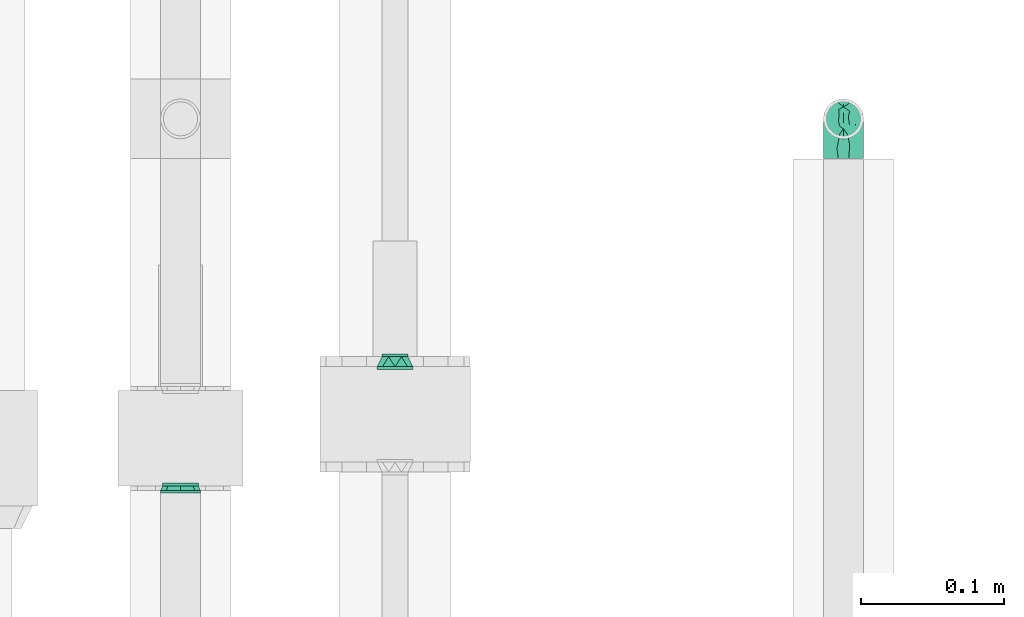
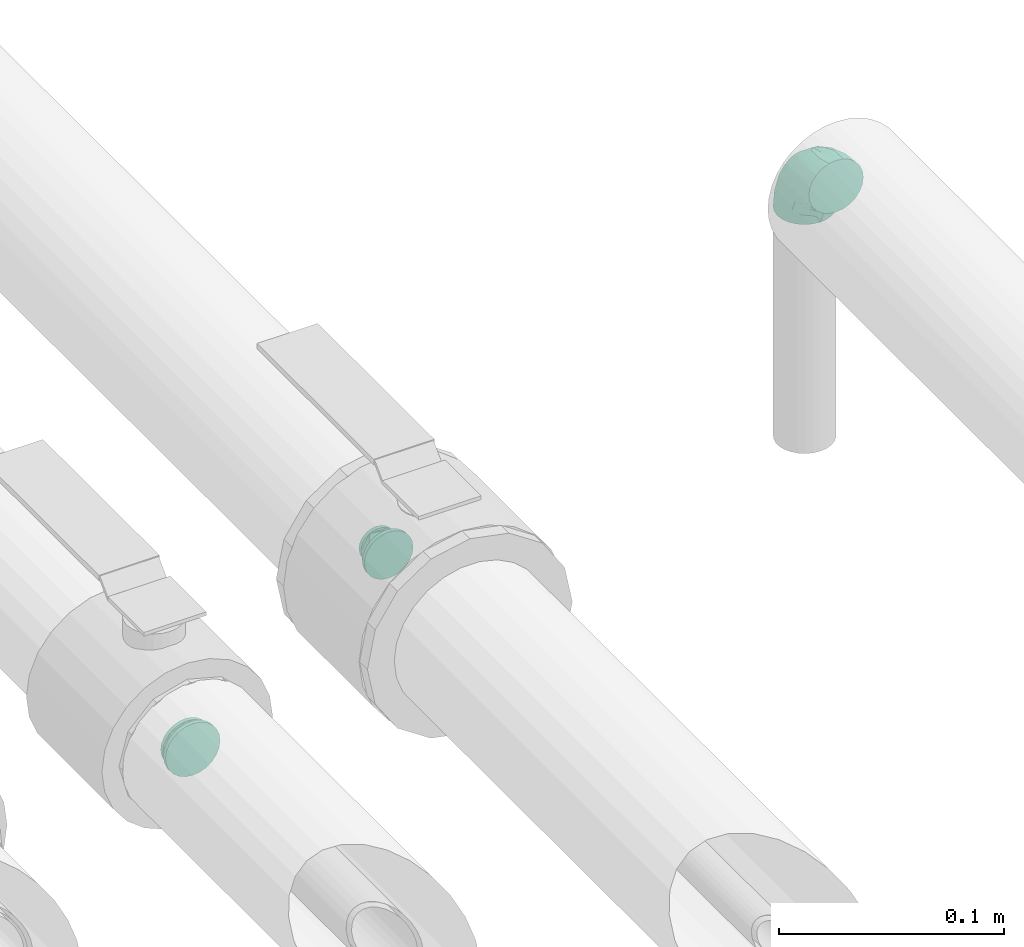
# One storey, part 81 of 83: 3 flow fittings.
"""IFC2X3 building model written with IfcOpenShell, lengths in millimetres."""

import ifcopenshell
import ifcopenshell.guid

model = None  # the IFC model being written
_history = None  # IfcOwnerHistory: only IFC2X3 demands one
_inside = {}  # id of a spatial element -> (the spatial element, [elements in it])
_under = {}  # id of a project, library or spatial element -> (it, [spatial elements below it])
_declared = {}  # id of a project -> (the project, [libraries it declares])
_typed = {}  # id of a type object -> (the type object, [elements of that type])
_made_of = {}  # id of a material, layer set ... -> (it, [elements and type objects made of it])


def new_model(schema):
    """Start an empty IFC model of exactly this schema.

    Asked for "IFC4X3", IfcOpenShell would pick the latest addendum, in which some entities
    have other attributes; the version numbers below select the first issue.
    IFC2X3 requires an IfcOwnerHistory on every rooted entity: one is made here for all.
    """
    global model, _history
    if schema == "IFC4X3":
        model = ifcopenshell.file(schema_version=(4, 3, 0, 0))
    else:
        model = ifcopenshell.file(schema=schema)
    _inside.clear()
    _under.clear()
    _declared.clear()
    _typed.clear()
    _made_of.clear()
    _history = None
    if model.schema == "IFC2X3":
        org = make("IfcOrganization", Name="unknown")
        user = make(
            "IfcPersonAndOrganization",
            ThePerson=make("IfcPerson", FamilyName="unknown"),
            TheOrganization=org,
        )
        app = make(
            "IfcApplication",
            ApplicationDeveloper=org,
            Version="unknown",
            ApplicationFullName="unknown",
            ApplicationIdentifier="unknown",
        )
        _history = make(
            "IfcOwnerHistory",
            OwningUser=user,
            OwningApplication=app,
            ChangeAction="ADDED",
            CreationDate=0,
        )
    return model


def make(cls, **values):
    """One entity of the class cls with the attributes given. An attribute that is None is left unset."""
    return model.create_entity(
        cls, **{name: value for name, value in values.items() if value is not None}
    )


def entity(cls, *values):
    """Any entity or typed value of the class cls, its attributes in the order of the schema. None: left unset."""
    e = model.create_entity(cls)
    for i, value in enumerate(values):
        if value is not None:
            e[i] = value
    return e


def rooted(cls, **values):
    """An entity with a GlobalId (a new one), such as an element, a storey or a relation."""
    return make(cls, GlobalId=ifcopenshell.guid.new(), OwnerHistory=_history, **values)


def si_unit(unit_type, name, prefix=None):
    """IfcSIUnit, for example si_unit("LENGTHUNIT", "METRE", prefix="MILLI")."""
    return make("IfcSIUnit", UnitType=unit_type, Prefix=prefix, Name=name)


def converted_unit(unit_type, name, factor, base, dimensions=None, offset=None):
    """IfcConversionBasedUnit, such as the inch: factor (a typed value) times the base unit."""
    return make(
        "IfcConversionBasedUnit"
        if offset is None
        else "IfcConversionBasedUnitWithOffset",
        ConversionOffset=offset,
        Dimensions=None
        if dimensions is None
        else entity("IfcDimensionalExponents", *dimensions),
        UnitType=unit_type,
        Name=name,
        ConversionFactor=make(
            "IfcMeasureWithUnit", ValueComponent=factor, UnitComponent=base
        ),
    )


def derived_unit(unit_type, elements):
    """IfcDerivedUnit: a product of units, each with its exponent."""
    return make(
        "IfcDerivedUnit",
        Elements=[
            make("IfcDerivedUnitElement", Unit=unit, Exponent=power)
            for unit, power in elements
        ],
        UnitType=unit_type,
    )


def assignment(units):
    """IfcUnitAssignment: the units of a project."""
    return None if units is None else make("IfcUnitAssignment", Units=units)


def point(xyz):
    """IfcCartesianPoint."""
    return None if xyz is None else make("IfcCartesianPoint", Coordinates=xyz)


def direction(xyz):
    """IfcDirection."""
    return None if xyz is None else make("IfcDirection", DirectionRatios=xyz)


def frame(location, z_axis=None, x_axis=None):
    """IfcAxis2Placement3D, a coordinate frame: its origin and axes. An axis left out is left unset."""
    return make(
        "IfcAxis2Placement3D",
        Location=point(location),
        Axis=direction(z_axis),
        RefDirection=direction(x_axis),
    )


def origin_with_axes():
    """The frame at (0, 0, 0) with the z axis (0, 0, 1) and the x axis (1, 0, 0) written out."""
    return frame((0.0, 0.0, 0.0), z_axis=(0.0, 0.0, 1.0), x_axis=(1.0, 0.0, 0.0))


def place(relative_to, where):
    """IfcLocalPlacement: puts the frame where relative to a parent placement (None: the world)."""
    return make(
        "IfcLocalPlacement", PlacementRelTo=relative_to, RelativePlacement=where
    )


def context(
    kind, dimensions, precision=None, world=None, true_north=None, identifier=None
):
    """IfcGeometricRepresentationContext, for example the 3D "Model" context."""
    return make(
        "IfcGeometricRepresentationContext",
        ContextIdentifier=identifier,
        ContextType=kind,
        CoordinateSpaceDimension=dimensions,
        Precision=precision,
        WorldCoordinateSystem=world,
        TrueNorth=true_north,
    )


def subcontext(parent, identifier, kind, view, scale=None):
    """IfcGeometricRepresentationSubContext, for example "Body" below "Model"."""
    return make(
        "IfcGeometricRepresentationSubContext",
        ContextIdentifier=identifier,
        ContextType=kind,
        ParentContext=parent,
        TargetScale=scale,
        TargetView=view,
    )


def project(units=None, contexts=None):
    """IfcProject with its units and contexts."""
    return rooted(
        "IfcProject",
        Name="project",
        RepresentationContexts=contexts,
        UnitsInContext=assignment(units),
    )


def spatial(cls, under=None, at=None, **own):
    """A site, building, storey or space (cls), placed at a placement, below another one or the project."""
    s = rooted(cls, ObjectPlacement=at, **own)
    if under is not None:
        _under.setdefault(under.id(), (under, []))[1].append(s)
    return s


def faces_of(points, faces, orient=None, outer=None):
    """IfcFace entities. A face is a list of loops; a loop is a list of indices into points, from 0.

    orient and outer hold one flag for each loop. By default every Orientation is true, the
    first loop of a face is its IfcFaceOuterBound and the others are IfcFaceBound.
    """
    made = []
    for i, loops in enumerate(faces):
        bounds = []
        for j, loop in enumerate(loops):
            is_outer = j == 0 if outer is None else outer[i][j]
            bounds.append(
                make(
                    "IfcFaceOuterBound" if is_outer else "IfcFaceBound",
                    Bound=make("IfcPolyLoop", Polygon=[points[k] for k in loop]),
                    Orientation=True if orient is None else orient[i][j],
                )
            )
        made.append(make("IfcFace", Bounds=bounds))
    return made


def open_shell(faces, orient=None, outer=None):
    """The faces of one IfcOpenShell. surface_model builds it on its shared points."""
    return ("IfcOpenShell", faces, orient, outer)


def surface_model(cls, points, shells):
    """IfcFaceBasedSurfaceModel or IfcShellBasedSurfaceModel (cls): surfaces that need not close."""
    shared = [point(p) for p in points]
    made = [make(c, CfsFaces=faces_of(shared, fs, o, b)) for c, fs, o, b in shells]
    if cls == "IfcFaceBasedSurfaceModel":
        return make(cls, FbsmFaces=made)
    return make(cls, SbsmBoundary=made)


def shape(context_of_items, identifier, shape_type, items):
    """IfcShapeRepresentation: the items that make up one representation, for example the "Body"."""
    return make(
        "IfcShapeRepresentation",
        ContextOfItems=context_of_items,
        RepresentationIdentifier=identifier,
        RepresentationType=shape_type,
        Items=items,
    )


def source(mapping_origin, context_of_items, identifier, shape_type, items):
    """IfcRepresentationMap: a shape defined once, which mapped items show again and again."""
    return make(
        "IfcRepresentationMap",
        MappingOrigin=mapping_origin,
        MappedRepresentation=shape(context_of_items, identifier, shape_type, items),
    )


def transform(
    local_origin,
    x_axis=None,
    y_axis=None,
    z_axis=None,
    scale=None,
    scale2=None,
    scale3=None,
    uniform=True,
):
    """IfcCartesianTransformationOperator3D, or its non-uniform kind. x_axis, y_axis, z_axis: its Axis1, 2, 3."""
    if uniform:
        return make(
            "IfcCartesianTransformationOperator3D",
            Axis1=direction(x_axis),
            Axis2=direction(y_axis),
            LocalOrigin=point(local_origin),
            Scale=scale,
            Axis3=direction(z_axis),
        )
    return make(
        "IfcCartesianTransformationOperator3DnonUniform",
        Axis1=direction(x_axis),
        Axis2=direction(y_axis),
        LocalOrigin=point(local_origin),
        Scale=scale,
        Axis3=direction(z_axis),
        Scale2=scale2,
        Scale3=scale3,
    )


def mapped(mapping_source, mapping_target):
    """IfcMappedItem: shows the shape of a source again, moved by a transform."""
    return make(
        "IfcMappedItem", MappingSource=mapping_source, MappingTarget=mapping_target
    )


def made_of(thing, what):
    """Note that an element or type object is made of a material, layer set ...; save() writes the relation."""
    if what is not None:
        _made_of.setdefault(what.id(), (what, []))[1].append(thing)
    return thing


def type_object(cls, material=None, **own):
    """A type object (cls), such as IfcWallType, which elements share."""
    return made_of(rooted(cls, **own), material)


def element(
    cls,
    number,
    at=None,
    inside=None,
    cuts=None,
    type_object=None,
    material=None,
    context=None,
    identifier="Body",
    shape_type=None,
    held_by="IfcProductDefinitionShape",
    body=None,
    shapes=None,
    **own,
):
    """One element of the class cls, such as IfcWall. Its Tag is "e" and its number.

    at: its placement. inside: the storey or other place that contains it. cuts: it is an
    opening in that element (IfcRelVoidsElement). A single representation is given by context,
    identifier, shape_type and body (its items); several are given by shapes. held_by: the class
    of the entity that holds the representations. save() writes the other relations.
    """
    e = rooted(cls, Tag="e%d" % number, ObjectPlacement=at, **own)
    if body is not None:
        shapes = [shape(context, identifier, shape_type, body)]
    if shapes is not None:
        e.Representation = make(held_by, Representations=shapes)
    if inside is not None:
        _inside.setdefault(inside.id(), (inside, []))[1].append(e)
    if cuts is not None:
        rooted(
            "IfcRelVoidsElement", RelatingBuildingElement=cuts, RelatedOpeningElement=e
        )
    if type_object is not None:
        _typed.setdefault(type_object.id(), (type_object, []))[1].append(e)
    return made_of(e, material)


def aggregate(whole, parts):
    """IfcRelAggregates: a whole, such as a stair, and the parts it consists of."""
    return rooted("IfcRelAggregates", RelatingObject=whole, RelatedObjects=parts)


def save(model, path):
    """Write the relations noted so far, then the file.

    IfcRelAggregates (storeys below a building ...), IfcRelContainedInSpatialStructure (elements
    in a storey), IfcRelDefinesByType, IfcRelAssociatesMaterial and IfcRelDeclares: one each for
    every whole, place, type object, material and project.
    """
    for whole, parts in _under.values():
        aggregate(whole, parts)
    for where, things in _inside.values():
        rooted(
            "IfcRelContainedInSpatialStructure",
            RelatedElements=things,
            RelatingStructure=where,
        )
    for kind, things in _typed.values():
        rooted("IfcRelDefinesByType", RelatedObjects=things, RelatingType=kind)
    for what, things in _made_of.values():
        rooted("IfcRelAssociatesMaterial", RelatedObjects=things, RelatingMaterial=what)
    for by, libraries in _declared.values():
        rooted("IfcRelDeclares", RelatingContext=by, RelatedDefinitions=libraries)
    model.write(path)


model = new_model("IFC2X3")

# Units and contexts
model_context = context("Model", 3, precision=0.01, world=frame((0.0, 4.29681676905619e-09, 0.0)), true_north=direction((4.01073788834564e-13, 1.0)))
plan_context = context("Plan", 3, precision=0.01, world=frame((0.0, 4.29681676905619e-09, 0.0)), true_north=direction((4.01073788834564e-13, 1.0)))
body_context = subcontext(model_context, "Body", "Model", "MODEL_VIEW")
ifc_project = project(units=[converted_unit("PLANEANGLEUNIT", "DEGREE", entity("IfcPositiveLengthMeasure", 0.0174532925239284), si_unit("PLANEANGLEUNIT", "RADIAN"), dimensions=[0, 0, 0, 0, 0, 0, 0]), si_unit("AREAUNIT", "SQUARE_METRE"), si_unit("LENGTHUNIT", "METRE", prefix="MILLI"), si_unit("MASSUNIT", "GRAM", prefix="KILO"), si_unit("POWERUNIT", "WATT"), si_unit("PRESSUREUNIT", "PASCAL"), si_unit("FORCEUNIT", "NEWTON", prefix="KILO"), si_unit("ELECTRICVOLTAGEUNIT", "VOLT"), si_unit("ELECTRICCURRENTUNIT", "AMPERE"), si_unit("THERMODYNAMICTEMPERATUREUNIT", "DEGREE_CELSIUS"), si_unit("TIMEUNIT", "SECOND"), si_unit("VOLUMEUNIT", "CUBIC_METRE"), derived_unit("LINEARVELOCITYUNIT", [(si_unit("LENGTHUNIT", "METRE"), 1), (si_unit("TIMEUNIT", "SECOND"), -1)]), derived_unit("VOLUMETRICFLOWRATEUNIT", [(si_unit("VOLUMEUNIT", "CUBIC_METRE"), 1), (si_unit("TIMEUNIT", "SECOND"), -1)]), derived_unit("THERMALTRANSMITTANCEUNIT", [(si_unit("POWERUNIT", "WATT"), 1), (si_unit("THERMODYNAMICTEMPERATUREUNIT", "KELVIN"), -1), (si_unit("AREAUNIT", "SQUARE_METRE"), -1)]), derived_unit("SOUNDPRESSUREUNIT", [(si_unit("PRESSUREUNIT", "PASCAL"), 1)])], contexts=[model_context, plan_context])

# Site, building, storey
site_placement = place(None, frame((0.0, -4.29681676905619e-09, 0.0), z_axis=(0.0, 0.0, 1.0), x_axis=(1.0, 0.0, 0.0)))
site = spatial("IfcSite", under=ifc_project, at=site_placement, Name="ENGM", CompositionType="ELEMENT")
building_placement = place(site_placement, frame((0.0, 4.29681676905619e-09, 0.0), z_axis=(0.0, 0.0, 1.0), x_axis=(1.0, 0.0, 0.0)))
building = spatial("IfcBuilding", under=site, at=building_placement, Name="TI", CompositionType="ELEMENT")
storey_placement = place(building_placement, frame((0.0, 0.0, 204000.0), z_axis=(0.0, 0.0, 1.0), x_axis=(1.0, 0.0, 0.0)))
storey = spatial("IfcBuildingStorey", under=building, at=storey_placement, Name="Nivå D", CompositionType="ELEMENT", Elevation=204000.0)

# Flow fittings
pipe_fitting_type_1 = type_object("IfcPipeFittingType", Name="magi_pipe_cu_reducer_centric_short_001", PredefinedType="TRANSITION")
shared_shape_1 = source(origin_with_axes(), body_context, "Body", "SurfaceModel", [
    surface_model("IfcShellBasedSurfaceModel", [(0.0, -9.0, 0.0), (0.0, -4.5, 7.79423), (0.0, -4.5, -7.79423), (-2.0, 0.0, 9.0), (-2.0, 2.32937, 8.69333), (-2.0, 4.5, 7.79423), (-2.0, 6.36396, 6.36396), (-2.0, -9.0, 0.0), (-2.0, -8.69333, -2.32937), (-2.0, 7.79423, 4.5), (-2.0, -2.32937, 8.69333), (-2.0, -6.36396, 6.36396), (-2.0, -4.5, 7.79423), (-2.0, -8.69333, 2.32937), (-2.0, -7.79423, 4.5), (-2.0, 8.69333, 2.32937), (-2.0, 8.69333, -2.32937), (-2.0, 6.36396, -6.36396), (-2.0, 7.79423, -4.5), (-2.0, 4.5, -7.79423), (-2.0, 2.32937, -8.69333), (-2.0, -4.5, -7.79423), (-2.0, -6.36396, -6.36396), (-2.0, -7.79423, -4.5), (-2.0, 0.0, -9.0), (-2.0, -2.32937, -8.69333), (-2.0, 9.0, 0.0), (0.0, 4.5, -7.79423), (0.0, -6.36396, -6.36396), (0.0, 2.32937, -8.69333), (0.0, 8.69333, -2.32937), (0.0, 6.36396, -6.36396), (0.0, 7.79423, -4.5), (0.0, 7.79423, 4.5), (0.0, -8.69333, -2.32937), (0.0, 0.0, -9.0), (0.0, -2.32937, -8.69333), (0.0, -7.79423, -4.5), (0.0, 9.0, 0.0), (0.0, 8.69333, 2.32937), (0.0, 0.0, 9.0), (0.0, 6.36396, 6.36396), (0.0, 4.5, 7.79423), (0.0, 2.32937, 8.69333), (0.0, -6.36396, 6.36396), (0.0, -8.69333, 2.32937), (0.0, -7.79423, 4.5), (0.0, -2.32937, 8.69333), (9.0, 12.07407, -3.23524), (9.0, 8.83883, -8.83883), (9.0, 10.82532, -6.25), (9.0, -8.83883, -8.83883), (9.0, -12.07407, -3.23524), (9.0, -10.82532, -6.25), (9.0, -6.25, -10.82532), (9.0, 12.07407, 3.23524), (9.0, 10.82532, 6.25), (9.0, 8.83883, 8.83883), (7.0, 8.83883, 8.83883), (7.0, 10.82532, 6.25), (7.0, 12.07407, 3.23524), (7.0, -3.23524, 12.07407), (7.0, -8.83883, 8.83883), (7.0, -6.25, 10.82532), (7.0, 8.83883, -8.83883), (7.0, 6.25, -10.82532), (7.0, 3.23524, -12.07407), (7.0, -6.25, -10.82532), (7.0, 12.07407, -3.23524), (7.0, -12.07407, -3.23524), (7.0, -8.83883, -8.83883), (7.0, -10.82532, -6.25), (7.0, 12.5, 0.0), (7.0, -12.5, 0.0), (9.0, -3.23524, -12.07407), (7.0, -3.23524, -12.07407), (9.0, -12.5, 0.0), (9.0, 0.0, -12.5), (7.0, 0.0, -12.5), (9.0, 3.23524, -12.07407), (9.0, 6.25, -10.82532), (7.0, 10.82532, -6.25), (9.0, 12.5, 0.0), (9.0, 6.25, 10.82532), (7.0, 6.25, 10.82532), (9.0, 3.23524, 12.07407), (7.0, 3.23524, 12.07407), (9.0, 0.0, 12.5), (7.0, 0.0, 12.5), (9.0, -3.23524, 12.07407), (9.0, -6.25, 10.82532), (9.0, -10.82532, 6.25), (7.0, -10.82532, 6.25), (9.0, -8.83883, 8.83883), (9.0, -12.07407, 3.23524), (7.0, -12.07407, 3.23524)], [open_shell([[[0, 1, 2]], [[3, 4, 5]], [[3, 5, 6]], [[7, 3, 8]], [[9, 3, 6]], [[9, 8, 3]], [[10, 11, 12]], [[10, 3, 11]], [[11, 13, 14]], [[13, 11, 7]], [[3, 7, 11]], [[9, 15, 16]], [[8, 9, 16]], [[17, 16, 18]], [[16, 19, 8]], [[19, 16, 17]], [[20, 21, 19]], [[8, 22, 23]], [[8, 19, 22]], [[21, 24, 25]], [[21, 22, 19]], [[24, 21, 20]], [[16, 15, 26]], [[27, 28, 29]], [[30, 27, 31]], [[28, 27, 30]], [[30, 31, 32]], [[33, 34, 30]], [[35, 2, 36]], [[2, 35, 28]], [[28, 34, 37]], [[28, 35, 29]], [[30, 34, 28]], [[30, 38, 39]], [[0, 34, 33]], [[40, 33, 41]], [[42, 43, 40]], [[42, 40, 41]], [[44, 33, 40]], [[45, 44, 46]], [[44, 45, 0]], [[44, 47, 1]], [[44, 0, 33]], [[40, 47, 44]], [[33, 30, 39]], [[8, 34, 7]], [[23, 37, 8]], [[2, 22, 21]], [[23, 22, 28]], [[36, 21, 25]], [[8, 37, 34]], [[34, 0, 7]], [[36, 2, 21]], [[28, 22, 2]], [[28, 37, 23]], [[35, 36, 25]], [[25, 24, 35]], [[20, 29, 24]], [[19, 27, 20]], [[32, 17, 18]], [[19, 17, 31]], [[30, 18, 16]], [[19, 31, 27]], [[27, 29, 20]], [[38, 30, 16]], [[32, 18, 30]], [[32, 31, 17]], [[26, 38, 16]], [[24, 29, 35]], [[15, 39, 26]], [[9, 33, 15]], [[42, 6, 5]], [[9, 6, 41]], [[43, 5, 4]], [[15, 33, 39]], [[39, 38, 26]], [[43, 42, 5]], [[41, 6, 42]], [[41, 33, 9]], [[40, 43, 4]], [[4, 3, 40]], [[10, 47, 3]], [[12, 1, 10]], [[46, 11, 14]], [[12, 11, 44]], [[45, 14, 13]], [[12, 44, 1]], [[1, 47, 10]], [[0, 45, 13]], [[46, 14, 45]], [[46, 44, 11]], [[7, 0, 13]], [[3, 47, 40]], [[38, 1, 42]], [[38, 27, 2]], [[38, 2, 1]], [[48, 49, 50]], [[51, 52, 53]], [[52, 51, 54]], [[55, 56, 57]], [[58, 59, 60]], [[61, 62, 63]], [[64, 65, 66]], [[67, 68, 66]], [[69, 70, 71]], [[68, 60, 72]], [[69, 52, 73]], [[71, 53, 69]], [[54, 70, 67]], [[71, 70, 51]], [[74, 67, 75]], [[69, 53, 52]], [[52, 76, 73]], [[74, 54, 67]], [[51, 70, 54]], [[51, 53, 71]], [[77, 74, 75]], [[75, 78, 77]], [[66, 79, 78]], [[65, 80, 66]], [[50, 64, 81]], [[65, 64, 49]], [[48, 81, 68]], [[65, 49, 80]], [[80, 79, 66]], [[82, 48, 68]], [[50, 81, 48]], [[50, 49, 64]], [[72, 82, 68]], [[78, 79, 77]], [[60, 55, 72]], [[59, 56, 60]], [[83, 58, 84]], [[59, 58, 57]], [[85, 84, 86]], [[60, 56, 55]], [[55, 82, 72]], [[85, 83, 84]], [[57, 58, 83]], [[57, 56, 59]], [[87, 85, 86]], [[86, 88, 87]], [[61, 89, 88]], [[63, 90, 61]], [[91, 62, 92]], [[63, 62, 93]], [[94, 92, 95]], [[63, 93, 90]], [[90, 89, 61]], [[76, 94, 95]], [[91, 92, 94]], [[91, 93, 62]], [[73, 76, 95]], [[88, 89, 87]], [[79, 80, 49]], [[79, 49, 48]], [[79, 48, 52]], [[91, 52, 48]], [[77, 54, 74]], [[77, 79, 54]], [[79, 52, 54]], [[48, 82, 91]], [[55, 57, 83]], [[83, 85, 87]], [[55, 83, 91]], [[91, 83, 87]], [[76, 91, 94]], [[52, 91, 76]], [[91, 90, 93]], [[90, 91, 89]], [[87, 89, 91]], [[91, 82, 55]], [[88, 86, 84]], [[92, 88, 84]], [[84, 58, 69]], [[84, 69, 92]], [[62, 61, 92]], [[92, 73, 95]], [[92, 61, 88]], [[92, 69, 73]], [[68, 58, 60]], [[69, 58, 68]], [[64, 68, 81]], [[64, 66, 68]], [[69, 68, 70]], [[67, 78, 75]], [[70, 68, 67]], [[66, 78, 67]], [[58, 88, 73]], [[64, 72, 58]], [[73, 88, 62]], [[73, 70, 64]], [[78, 64, 70]], [[73, 64, 58]], [[0, 2, 70]], [[70, 73, 0]], [[2, 78, 70]], [[27, 38, 64]], [[64, 78, 27]], [[72, 64, 38]], [[27, 78, 2]], [[38, 42, 58]], [[58, 72, 38]], [[42, 88, 58]], [[1, 0, 62]], [[62, 88, 1]], [[73, 62, 0]], [[1, 88, 42]]])]),
])
flow_fitting_1_placement = place(storey_placement, frame((600031.9743, 698846.72914, 6052.20000000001), z_axis=(0.0, 0.0, 1.0), x_axis=(0.0, -1.0, 0.0)))
element("IfcFlowFitting", 1, at=flow_fitting_1_placement, inside=storey, type_object=pipe_fitting_type_1, Name="magi_pipe_cu_reducer_centric_short_001", context=body_context, shape_type="MappedRepresentation", body=[
    mapped(shared_shape_1, transform((0.0, 0.0, 0.0), scale=1.0)),
])
pipe_fitting_type_2 = type_object("IfcPipeFittingType", Name="magi_pipe_cu_elbow_short_001", PredefinedType="BEND")
shared_shape_2 = source(origin_with_axes(), body_context, "Body", "SurfaceModel", [
    surface_model("IfcShellBasedSurfaceModel", [(-27.99918, 7.0, -12.12436), (-27.99918, 3.62347, -13.52296), (-27.99918, 0.0, -14.0), (-27.99918, 9.89949, -9.89949), (-27.99918, 13.52296, -3.62347), (-27.99918, 12.12436, -7.0), (-27.99918, 14.0, 0.0), (-27.99918, -12.12436, -7.0), (-27.99918, -9.89949, -9.89949), (-27.99918, -7.0, -12.12436), (-27.99918, -3.62347, -13.52296), (-27.99918, -13.52296, -3.62347), (-27.99918, -14.0, 0.0), (-27.99918, 13.52296, 3.62347), (-27.99918, 3.62347, 13.52296), (-27.99918, 12.12436, 7.0), (-27.99918, 9.89949, 9.89949), (-27.99918, 7.0, 12.12436), (-27.99918, 0.0, 14.0), (-27.99918, -9.89949, 9.89949), (-27.99918, -7.0, 12.12436), (-27.99918, -12.12436, 7.0), (-27.99918, -13.52296, 3.62347), (-27.99918, -3.62347, 13.52296), (0.00082, 27.99918, -14.0), (-3.62264, 27.99928, -13.52296), (-6.99918, 27.99938, -12.12436), (-13.52214, 27.99957, -3.62347), (-9.89867, 27.99947, -9.89949), (-12.12353, 27.99953, -7.0), (12.12518, 27.99882, -7.0), (7.00082, 27.99897, -12.12436), (9.90032, 27.99889, -9.89949), (3.62429, 27.99907, -13.52296), (14.00082, 27.99877, 0.0), (13.52378, 27.99878, -3.62347), (-13.99918, 27.99959, 0.0), (-13.52214, 27.99957, 3.62347), (-12.12353, 27.99953, 7.0), (-9.89867, 27.99947, 9.89949), (-6.99918, 27.99938, 12.12436), (0.00082, 27.99918, 14.0), (-3.62264, 27.99928, 13.52296), (12.12518, 27.99882, 7.0), (7.00082, 27.99897, 12.12436), (9.90032, 27.99889, 9.89949), (13.52378, 27.99878, 3.62347), (3.62429, 27.99907, 13.52296), (-18.74644, -12.24671, 4.38177), (-20.49699, -10.87112, 7.85541), (-14.63014, -10.41785, 0.0), (-11.36803, -10.18891, 3.09684), (5.89266, 4.32675, 4.24469), (3.06727, 4.04038, 8.35652), (-0.17249, -0.73415, 7.21161), (-12.21555, -8.8583, 7.04957), (-3.77037, -5.46945, 4.31402), (-21.31466, -12.20892, 0.0), (6.34974, 11.25831, 9.57714), (8.06533, 18.31576, 10.42713), (3.37529, 10.81127, 11.64295), (-18.316, -8.0648, 10.42713), (-20.56185, -5.29222, 12.59497), (-21.38684, -1.85462, 13.76057), (-19.60383, 2.14601, 13.97614), (-10.81137, -3.37497, 11.64295), (-13.93774, -0.1257, 13.56956), (-21.58031, 5.49074, 13.225), (-21.95535, 11.65158, 9.17994), (-20.05704, 14.63255, 6.40067), (-24.50767, 13.14638, 5.80114), (-14.41278, 20.50557, 6.33705), (-4.86524, 13.76721, 13.97487), (-10.3695, 10.3698, 13.65981), (-8.33593, 6.11769, 13.9279), (-14.75695, 15.63474, 9.9168), (-24.22116, 8.47816, 11.40752), (-3.65397, 9.37629, 13.74656), (-6.95575, 2.56829, 13.07323), (-1.42967, 7.56348, 12.86583), (-23.31476, 14.3285, 3.52783), (-21.69694, 16.61042, 0.0), (-5.22524, 24.14852, 13.11349), (-1.91815, 20.94132, 13.96561), (5.29282, 20.56169, 12.59497), (-4.8078, -3.33956, 8.67639), (-2.50042, 2.50049, 11.44625), (1.85525, 21.38678, 13.76057), (10.87172, 20.49667, 7.85541), (8.85866, 12.21529, 7.04957), (12.24726, 18.74608, 4.38177), (-11.2585, -6.34941, 9.57714), (-15.37289, 21.10986, 3.25613), (-19.1491, 16.63572, 3.33833), (10.18925, 11.36773, 3.09684), (10.41828, 14.62983, 0.0), (12.20955, 21.3143, 0.0), (-18.09983, 18.10036, 0.0), (8.37348, 6.99929, 0.0), (-11.50232, 18.59912, 10.71325), (-8.84635, 21.68222, 11.60425), (-11.55674, 22.32276, 9.13966), (-10.58879, 15.134, 12.47629), (-6.05415, 18.96989, 13.33303), (-14.95157, 12.56257, 11.63436), (-6.99953, -8.37327, 0.0), (-15.38362, 5.99676, 13.74946), (-13.73715, 3.43056, 13.99403), (-14.88313, 9.49918, 12.94917), (-8.15467, 14.53238, 13.41131), (0.12611, 13.93774, 13.56956), (-19.27805, 9.50338, 11.78941), (-1.0657, 0.88323, 9.56878), (-3.82955, -4.31702, 6.58357), (-3.15628, -4.53013, 0.0), (1.6382, -1.17361, 3.37564), (-16.60978, 21.69743, 0.0), (4.53023, 3.15615, 0.0), (0.68697, -0.68699, 0.0), (-22.16238, 1.77021, -13.95443), (-12.11054, 20.49277, -9.34216), (-20.84802, -12.59419, -4.60989), (-21.54158, 5.49691, -13.22664), (-19.10825, 16.60586, -3.53066), (-11.43688, -3.53344, -11.74566), (-12.15624, -0.17476, -13.31564), (-5.62483, -0.23454, -11.47168), (-20.32491, 9.17946, -11.70875), (-22.13453, 11.60457, -9.16026), (8.41768, 20.69006, -10.60191), (-16.88373, 12.82935, -10.55879), (-11.13641, -10.24966, -2.34749), (-4.84105, -6.54663, -3.36133), (-12.96543, 16.27139, -10.78019), (-9.96955, 17.11857, -12.15811), (-12.93832, 12.9387, -12.29245), (-1.23269, -2.64207, -5.9208), (1.22995, 2.47035, -8.89803), (5.16636, 4.11681, -5.51019), (-13.82227, 8.10183, -13.5377), (-19.77279, -10.77047, -7.78841), (-20.6903, -8.41707, -10.60191), (-5.71432, 20.36804, -13.27579), (12.59481, 20.84765, -4.60989), (-23.6438, -5.51922, -12.7416), (-12.0914, -8.27184, -7.8282), (-10.45248, -5.711, -9.79369), (0.58968, 6.57579, -11.67539), (0.17512, 12.15623, -13.31564), (2.89393, 11.95122, -12.23039), (-23.72752, 14.45074, -2.39668), (-13.72647, 22.2171, -6.10194), (-14.65421, 22.71966, -3.11814), (10.77105, 19.77248, -7.78841), (-4.94193, 4.94207, -13.2198), (-17.01222, 16.64543, -6.86729), (-1.76956, 22.16243, -13.95443), (-8.78655, 21.97828, -11.58142), (1.76582, 20.62564, -13.74403), (5.51991, 23.64364, -12.7416), (-20.62569, -1.76522, -13.74403), (-17.72888, -4.83154, -12.45129), (-3.30906, 15.42268, -13.99698), (-7.56973, 8.16896, -13.99205), (-8.28344, 13.27151, -13.5833), (-6.8738, -6.54356, -6.32213), (9.88787, 10.39986, -2.49708), (6.8943, 5.11391, -2.74015), (0.30461, -2.5875, -3.00485), (-22.38197, 13.76105, -5.90635), (9.77865, 12.18993, -5.31298), (8.70731, 13.51858, -8.04191), (5.7113, 10.45231, -9.79369), (4.83207, 17.72874, -12.45129), (-4.06714, -2.72533, -8.72845), (6.23897, 7.825, -7.62682), (-15.42258, 3.30951, -13.99698), (-16.0495, 23.04997, 0.0), (-12.19022, -9.7783, -5.31298), (3.79963, 1.2482, -3.5015), (-15.61236, 15.85555, -9.08378)], [open_shell([[[0, 1, 2]], [[3, 0, 2]], [[4, 5, 3]], [[2, 4, 3]], [[6, 2, 7]], [[8, 7, 9]], [[10, 9, 7]], [[11, 12, 7]], [[2, 10, 7]], [[12, 6, 7]], [[4, 2, 6]], [[13, 6, 14]], [[15, 13, 16]], [[14, 17, 16]], [[13, 14, 16]], [[18, 14, 6]], [[19, 20, 21]], [[21, 12, 22]], [[23, 18, 20]], [[20, 12, 21]], [[6, 20, 18]], [[20, 6, 12]], [[24, 25, 26]], [[24, 26, 27]], [[28, 29, 27]], [[28, 27, 26]], [[24, 27, 30]], [[31, 30, 32]], [[30, 31, 33]], [[30, 34, 35]], [[30, 33, 24]], [[27, 34, 30]], [[27, 36, 34]], [[36, 37, 38]], [[36, 38, 39]], [[40, 41, 34]], [[40, 36, 39]], [[41, 40, 42]], [[43, 44, 45]], [[46, 34, 43]], [[44, 41, 47]], [[41, 44, 43]], [[41, 43, 34]], [[36, 40, 34]], [[48, 49, 21]], [[48, 50, 51]], [[52, 53, 54]], [[55, 51, 56]], [[49, 19, 21]], [[57, 48, 22]], [[58, 59, 60]], [[61, 20, 19]], [[61, 62, 20]], [[18, 63, 64]], [[62, 65, 66]], [[59, 45, 44]], [[18, 23, 63]], [[67, 17, 14]], [[68, 69, 70]], [[38, 37, 71]], [[72, 73, 74]], [[69, 68, 75]], [[18, 64, 14]], [[17, 76, 16]], [[15, 16, 68]], [[77, 78, 79]], [[80, 81, 6]], [[42, 82, 83]], [[44, 84, 59]], [[85, 86, 65]], [[47, 41, 87]], [[88, 89, 90]], [[91, 65, 61]], [[41, 42, 83]], [[71, 92, 93]], [[90, 94, 95]], [[84, 44, 47]], [[88, 90, 43]], [[59, 84, 60]], [[46, 43, 90]], [[75, 71, 69]], [[20, 62, 23]], [[90, 96, 46]], [[97, 81, 93]], [[94, 98, 95]], [[92, 97, 93]], [[50, 48, 57]], [[70, 13, 15]], [[99, 100, 101]], [[39, 101, 100]], [[40, 39, 100]], [[102, 103, 100]], [[103, 72, 83]], [[82, 100, 103]], [[82, 42, 40]], [[99, 104, 102]], [[6, 13, 80]], [[67, 14, 64]], [[51, 50, 105]], [[48, 21, 22]], [[49, 55, 61]], [[43, 45, 88]], [[89, 52, 94]], [[106, 107, 74]], [[108, 67, 106]], [[39, 38, 101]], [[109, 102, 73]], [[103, 109, 72]], [[87, 83, 110]], [[76, 68, 16]], [[68, 111, 104]], [[65, 62, 61]], [[63, 62, 66]], [[91, 61, 55]], [[65, 86, 78]], [[87, 84, 47]], [[110, 79, 60]], [[110, 60, 84]], [[86, 112, 60]], [[55, 49, 48]], [[61, 19, 49]], [[45, 59, 88]], [[89, 88, 59]], [[106, 67, 64]], [[76, 67, 111]], [[53, 52, 89]], [[112, 86, 85]], [[56, 113, 55]], [[112, 54, 53]], [[58, 89, 59]], [[56, 51, 105]], [[114, 115, 56]], [[13, 70, 80]], [[69, 71, 93]], [[36, 116, 92]], [[92, 116, 97]], [[38, 71, 101]], [[75, 101, 71]], [[99, 102, 100]], [[108, 104, 111]], [[106, 74, 73]], [[110, 83, 72]], [[78, 74, 66]], [[72, 74, 77]], [[83, 87, 41]], [[84, 87, 110]], [[62, 63, 23]], [[64, 63, 66]], [[22, 12, 57]], [[96, 90, 95]], [[96, 34, 46]], [[115, 117, 52]], [[56, 105, 114]], [[55, 48, 51]], [[89, 94, 90]], [[52, 98, 94]], [[106, 64, 107]], [[108, 106, 73]], [[102, 108, 73]], [[67, 108, 111]], [[102, 104, 108]], [[68, 104, 75]], [[64, 66, 107]], [[66, 74, 107]], [[65, 78, 66]], [[79, 78, 86]], [[60, 79, 86]], [[77, 79, 110]], [[72, 77, 110]], [[78, 77, 74]], [[67, 76, 17]], [[68, 76, 111]], [[100, 82, 40]], [[83, 82, 103]], [[68, 70, 15]], [[80, 69, 93]], [[69, 80, 70]], [[80, 93, 81]], [[55, 85, 91]], [[85, 65, 91]], [[60, 53, 58]], [[53, 89, 58]], [[54, 112, 85]], [[60, 112, 53]], [[85, 113, 54]], [[113, 115, 54]], [[55, 113, 85]], [[115, 113, 56]], [[71, 37, 92]], [[115, 114, 118]], [[36, 92, 37]], [[101, 75, 99]], [[99, 75, 104]], [[72, 109, 73]], [[103, 102, 109]], [[54, 115, 52]], [[117, 115, 118]], [[117, 98, 52]], [[1, 119, 2]], [[29, 28, 120]], [[121, 57, 11]], [[0, 122, 1]], [[97, 123, 81]], [[124, 125, 126]], [[127, 3, 128]], [[32, 129, 31]], [[127, 128, 130]], [[131, 132, 105]], [[133, 134, 135]], [[127, 0, 3]], [[136, 137, 138]], [[139, 122, 127]], [[3, 5, 128]], [[7, 140, 121]], [[141, 140, 8]], [[25, 142, 26]], [[95, 143, 96]], [[144, 9, 10]], [[145, 141, 146]], [[35, 34, 96]], [[147, 148, 149]], [[140, 7, 8]], [[6, 81, 150]], [[130, 133, 135]], [[151, 152, 27]], [[153, 30, 143]], [[147, 154, 148]], [[27, 29, 151]], [[120, 155, 151]], [[32, 153, 129]], [[24, 156, 25]], [[25, 156, 142]], [[143, 30, 35]], [[28, 26, 157]], [[123, 152, 155]], [[158, 33, 159]], [[144, 160, 161]], [[122, 0, 127]], [[148, 162, 158]], [[157, 26, 142]], [[162, 163, 164]], [[159, 33, 31]], [[165, 136, 132]], [[30, 153, 32]], [[166, 98, 167]], [[160, 10, 2]], [[161, 160, 125]], [[95, 166, 143]], [[50, 131, 105]], [[121, 11, 7]], [[168, 114, 132]], [[150, 169, 4]], [[167, 98, 117]], [[33, 158, 24]], [[164, 142, 162]], [[133, 157, 134]], [[8, 9, 141]], [[165, 145, 146]], [[170, 171, 153]], [[129, 172, 173]], [[126, 137, 174]], [[175, 137, 172]], [[148, 158, 173]], [[156, 158, 162]], [[149, 172, 147]], [[148, 154, 163]], [[119, 160, 2]], [[176, 163, 125]], [[176, 125, 160]], [[125, 154, 126]], [[169, 128, 5]], [[127, 130, 135]], [[139, 127, 135]], [[119, 122, 176]], [[120, 151, 29]], [[152, 97, 177]], [[142, 164, 134]], [[120, 28, 157]], [[152, 36, 27]], [[81, 123, 150]], [[123, 155, 169]], [[152, 123, 97]], [[140, 178, 121]], [[121, 178, 131]], [[144, 141, 9]], [[146, 141, 161]], [[35, 96, 143]], [[170, 153, 143]], [[129, 153, 171]], [[159, 129, 173]], [[137, 147, 172]], [[126, 154, 147]], [[172, 171, 175]], [[174, 137, 136]], [[137, 126, 147]], [[126, 146, 124]], [[117, 118, 179]], [[179, 138, 167]], [[128, 169, 155]], [[5, 4, 169]], [[57, 121, 50]], [[57, 12, 11]], [[122, 119, 1]], [[160, 119, 176]], [[158, 156, 24]], [[142, 156, 162]], [[162, 148, 163]], [[139, 135, 164]], [[125, 163, 154]], [[139, 163, 176]], [[163, 139, 164]], [[122, 139, 176]], [[155, 180, 128]], [[180, 120, 133]], [[180, 133, 130]], [[157, 133, 120]], [[142, 134, 157]], [[164, 135, 134]], [[128, 180, 130]], [[120, 180, 155]], [[152, 151, 155]], [[36, 152, 177]], [[169, 150, 123]], [[6, 150, 4]], [[121, 131, 50]], [[178, 165, 132]], [[178, 132, 131]], [[168, 132, 136]], [[145, 165, 178]], [[174, 165, 146]], [[178, 140, 145]], [[141, 145, 140]], [[179, 136, 138]], [[170, 166, 167]], [[168, 179, 118]], [[170, 167, 138]], [[143, 166, 170]], [[95, 98, 166]], [[117, 179, 167]], [[136, 179, 168]], [[129, 159, 31]], [[158, 159, 173]], [[160, 144, 10]], [[141, 144, 161]], [[175, 170, 138]], [[129, 171, 172]], [[170, 175, 171]], [[137, 175, 138]], [[148, 173, 149]], [[172, 149, 173]], [[165, 174, 136]], [[126, 174, 146]], [[146, 161, 124]], [[125, 124, 161]], [[114, 168, 118]], [[114, 105, 132]]])]),
])
flow_fitting_2_placement = place(storey_placement, frame((600346.50429, 699013.57232, 6052.19910999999), z_axis=(1.0, 0.0, 0.0), x_axis=(0.0, 0.0, 1.0)))
element("IfcFlowFitting", 2, at=flow_fitting_2_placement, inside=storey, type_object=pipe_fitting_type_2, Name="magi_pipe_cu_elbow_short_001", context=body_context, shape_type="MappedRepresentation", body=[
    mapped(shared_shape_2, transform((0.0, 0.0, 0.0), scale=1.0)),
])
shared_shape_3 = source(origin_with_axes(), body_context, "Body", "SurfaceModel", [
    surface_model("IfcShellBasedSurfaceModel", [(5.0, 3.62347, -13.52296), (5.0, 7.0, -12.12436), (5.0, 9.89949, -9.89949), (5.0, 12.12436, -7.0), (5.0, 13.52296, -3.62347), (5.0, -7.0, -12.12436), (5.0, -12.12436, -7.0), (5.0, 14.0, 0.0), (5.0, 0.0, -14.0), (5.0, -3.62347, -13.52296), (5.0, -9.89949, -9.89949), (5.0, -13.52296, -3.62347), (5.0, 13.52296, 3.62347), (5.0, 12.12436, 7.0), (5.0, 9.89949, 9.89949), (5.0, 0.0, 14.0), (5.0, 3.62347, 13.52296), (5.0, 7.0, 12.12436), (5.0, -3.62347, 13.52296), (5.0, -13.52296, 3.62347), (5.0, -9.89949, 9.89949), (5.0, -12.12436, 7.0), (5.0, -14.0, 0.0), (5.0, -7.0, 12.12436), (3.0, 9.89949, 9.89949), (3.0, 0.0, 14.0), (3.0, 3.62347, 13.52296), (3.0, 7.0, 12.12436), (3.0, 12.12436, 7.0), (3.0, 13.52296, 3.62347), (3.0, -14.0, 0.0), (3.0, -12.12436, -7.0), (3.0, -3.62347, 13.52296), (3.0, -9.89949, 9.89949), (3.0, -7.0, 12.12436), (3.0, -13.52296, 3.62347), (3.0, -12.12436, 7.0), (3.0, 13.52296, -3.62347), (3.0, 3.62347, -13.52296), (3.0, 12.12436, -7.0), (3.0, 9.89949, -9.89949), (3.0, 7.0, -12.12436), (3.0, 0.0, -14.0), (3.0, -7.0, -12.12436), (3.0, -9.89949, -9.89949), (3.0, -13.52296, -3.62347), (3.0, -3.62347, -13.52296), (3.0, 14.0, 0.0), (-2.0, 0.0, 12.5), (-2.0, 3.23524, 12.07407), (-2.0, 6.25, 10.82532), (-2.0, -10.82532, 6.25), (-2.0, 8.83883, 8.83883), (-2.0, 10.82532, 6.25), (-2.0, 12.07407, 3.23524), (-2.0, -12.07407, -3.23524), (-2.0, -3.23524, 12.07407), (-2.0, -8.83883, 8.83883), (-2.0, -6.25, 10.82532), (-2.0, -12.5, 0.0), (-2.0, -12.07407, 3.23524), (-2.0, 12.07407, -3.23524), (-2.0, 8.83883, -8.83883), (-2.0, 10.82532, -6.25), (-2.0, 6.25, -10.82532), (-2.0, 3.23524, -12.07407), (-2.0, -6.25, -10.82532), (-2.0, -8.83883, -8.83883), (-2.0, -10.82532, -6.25), (-2.0, 0.0, -12.5), (-2.0, -3.23524, -12.07407), (-2.0, 12.5, 0.0), (0.0, 3.23524, -12.07407), (0.0, 6.25, -10.82532), (0.0, 8.83883, -8.83883), (0.0, 12.07407, -3.23524), (0.0, -12.07407, -3.23524), (0.0, 10.82532, -6.25), (0.0, -10.82532, 6.25), (0.0, 0.0, -12.5), (0.0, -6.25, -10.82532), (0.0, -3.23524, -12.07407), (0.0, -8.83883, -8.83883), (0.0, -10.82532, -6.25), (0.0, 12.5, 0.0), (0.0, 12.07407, 3.23524), (0.0, 10.82532, 6.25), (0.0, 8.83883, 8.83883), (0.0, 6.25, 10.82532), (0.0, 3.23524, 12.07407), (0.0, 0.0, 12.5), (0.0, -12.5, 0.0), (0.0, -12.07407, 3.23524), (0.0, -8.83883, 8.83883), (0.0, -3.23524, 12.07407), (0.0, -6.25, 10.82532), (3.0, -12.43495, -3.77835), (0.0, -10.66942, -4.41942), (3.0, -11.16722, -6.83892), (0.0, -9.75413, -6.62913), (0.0, -11.58471, -2.20971), (0.0, -2.20971, -11.58471), (3.0, -7.42462, -10.92462), (3.0, -2.47487, -12.97487), (0.0, -6.62913, -9.75413), (3.0, -4.94975, -11.94975), (3.0, 2.47487, -12.97487), (0.0, 2.20971, -11.58471), (3.0, 11.94975, -4.94975), (0.0, 10.66942, -4.41942), (3.0, 12.97487, -2.47487), (3.0, 10.92462, -7.42462), (0.0, 9.75413, -6.62913), (0.0, 6.62913, -9.75413), (3.0, 7.42462, -10.92462), (0.0, 11.80132, -1.68677), (0.0, -4.41942, -10.66942), (0.0, 4.41942, -10.66942), (3.0, 4.94975, -11.94975), (3.0, 12.43495, 3.77835), (0.0, 10.66942, 4.41942), (3.0, 11.16722, 6.83892), (0.0, 9.75413, 6.62913), (0.0, 11.58471, 2.20971), (0.0, 2.20971, 11.58471), (3.0, 7.42462, 10.92462), (3.0, 2.47487, 12.97487), (0.0, 6.62913, 9.75413), (3.0, 4.94975, 11.94975), (3.0, -2.47487, 12.97487), (0.0, -2.20971, 11.58471), (3.0, -11.94975, 4.94975), (0.0, -10.66942, 4.41942), (3.0, -12.97487, 2.47487), (3.0, -10.92462, 7.42462), (0.0, -9.75413, 6.62913), (0.0, -6.62913, 9.75413), (3.0, -7.42462, 10.92462), (0.0, -11.80132, 1.68677), (0.0, 4.41942, 10.66942), (0.0, -4.41942, 10.66942), (3.0, -4.94975, 11.94975)], [open_shell([[[0, 1, 2]], [[0, 2, 3]], [[0, 4, 5]], [[4, 0, 3]], [[6, 4, 7]], [[8, 5, 9]], [[8, 0, 5]], [[5, 6, 10]], [[4, 6, 5]], [[7, 11, 6]], [[7, 12, 11]], [[12, 13, 14]], [[12, 14, 15]], [[16, 15, 14]], [[16, 14, 17]], [[12, 15, 18]], [[19, 20, 21]], [[18, 19, 22]], [[20, 18, 23]], [[18, 20, 19]], [[22, 12, 18]], [[12, 22, 11]], [[24, 25, 26]], [[24, 26, 27]], [[24, 28, 29]], [[24, 29, 25]], [[30, 25, 31]], [[32, 33, 34]], [[33, 32, 35]], [[33, 35, 36]], [[35, 32, 30]], [[32, 25, 30]], [[25, 29, 31]], [[31, 29, 37]], [[38, 37, 39]], [[40, 41, 38]], [[40, 38, 39]], [[42, 37, 38]], [[31, 43, 44]], [[45, 30, 31]], [[43, 42, 46]], [[43, 31, 37]], [[42, 43, 37]], [[29, 47, 37]], [[45, 11, 30]], [[31, 6, 45]], [[5, 44, 43]], [[31, 44, 10]], [[9, 43, 46]], [[45, 6, 11]], [[11, 22, 30]], [[9, 5, 43]], [[10, 44, 5]], [[10, 6, 31]], [[8, 9, 46]], [[46, 42, 8]], [[38, 0, 42]], [[41, 1, 38]], [[3, 40, 39]], [[41, 40, 2]], [[4, 39, 37]], [[41, 2, 1]], [[1, 0, 38]], [[7, 4, 37]], [[3, 39, 4]], [[3, 2, 40]], [[47, 7, 37]], [[42, 0, 8]], [[29, 12, 47]], [[28, 13, 29]], [[17, 24, 27]], [[28, 24, 14]], [[16, 27, 26]], [[29, 13, 12]], [[12, 7, 47]], [[16, 17, 27]], [[14, 24, 17]], [[14, 13, 28]], [[15, 16, 26]], [[26, 25, 15]], [[32, 18, 25]], [[34, 23, 32]], [[21, 33, 36]], [[34, 33, 20]], [[19, 36, 35]], [[34, 20, 23]], [[23, 18, 32]], [[22, 19, 35]], [[21, 36, 19]], [[21, 20, 33]], [[30, 22, 35]], [[25, 18, 15]], [[48, 49, 50]], [[51, 48, 50]], [[52, 53, 54]], [[50, 52, 55]], [[50, 55, 51]], [[56, 57, 58]], [[57, 56, 51]], [[51, 59, 60]], [[51, 56, 48]], [[51, 55, 59]], [[61, 52, 54]], [[55, 52, 61]], [[62, 61, 63]], [[62, 64, 65]], [[62, 65, 61]], [[66, 61, 65]], [[55, 67, 68]], [[55, 61, 67]], [[66, 69, 70]], [[67, 61, 66]], [[65, 69, 66]], [[61, 54, 71]], [[72, 73, 74]], [[72, 74, 75]], [[72, 75, 76]], [[75, 74, 77]], [[78, 76, 75]], [[79, 80, 81]], [[79, 72, 80]], [[82, 76, 83]], [[82, 80, 72]], [[76, 82, 72]], [[75, 84, 78]], [[85, 86, 87]], [[85, 87, 88]], [[88, 89, 90]], [[85, 88, 78]], [[78, 88, 90]], [[91, 78, 92]], [[76, 78, 91]], [[93, 94, 95]], [[94, 93, 78]], [[90, 94, 78]], [[78, 84, 85]], [[55, 76, 59]], [[68, 83, 55]], [[80, 67, 66]], [[68, 67, 82]], [[81, 66, 70]], [[55, 83, 76]], [[76, 91, 59]], [[81, 80, 66]], [[82, 67, 80]], [[82, 83, 68]], [[79, 81, 70]], [[70, 69, 79]], [[65, 72, 69]], [[64, 73, 65]], [[77, 62, 63]], [[64, 62, 74]], [[75, 63, 61]], [[64, 74, 73]], [[73, 72, 65]], [[84, 75, 61]], [[77, 63, 75]], [[77, 74, 62]], [[71, 84, 61]], [[69, 72, 79]], [[54, 85, 71]], [[53, 86, 54]], [[88, 52, 50]], [[53, 52, 87]], [[89, 50, 49]], [[54, 86, 85]], [[85, 84, 71]], [[89, 88, 50]], [[87, 52, 88]], [[87, 86, 53]], [[90, 89, 49]], [[49, 48, 90]], [[56, 94, 48]], [[58, 95, 56]], [[78, 57, 51]], [[58, 57, 93]], [[92, 51, 60]], [[58, 93, 95]], [[95, 94, 56]], [[91, 92, 60]], [[78, 51, 92]], [[78, 93, 57]], [[59, 91, 60]], [[48, 94, 90]], [[40, 24, 25]], [[40, 47, 24]], [[25, 33, 30]], [[30, 44, 42]], [[42, 40, 30]], [[30, 40, 25]], [[82, 93, 90]], [[82, 91, 93]], [[90, 87, 84]], [[84, 74, 79]], [[79, 82, 84]], [[84, 82, 90]], [[96, 97, 98]], [[82, 44, 99]], [[30, 100, 96]], [[101, 79, 42]], [[82, 102, 44]], [[101, 42, 103]], [[104, 105, 102]], [[106, 79, 107]], [[108, 109, 110]], [[99, 44, 98]], [[106, 42, 79]], [[111, 74, 112]], [[108, 112, 109]], [[113, 40, 114]], [[115, 110, 109]], [[99, 98, 97]], [[84, 47, 115]], [[103, 105, 116]], [[117, 114, 118]], [[107, 117, 118]], [[100, 30, 91]], [[100, 97, 96]], [[105, 104, 116]], [[82, 104, 102]], [[103, 116, 101]], [[112, 108, 111]], [[111, 40, 74]], [[115, 47, 110]], [[114, 117, 113]], [[113, 74, 40]], [[107, 118, 106]], [[119, 120, 121]], [[87, 24, 122]], [[47, 123, 119]], [[124, 90, 25]], [[87, 125, 24]], [[124, 25, 126]], [[127, 128, 125]], [[129, 90, 130]], [[131, 132, 133]], [[122, 24, 121]], [[129, 25, 90]], [[134, 93, 135]], [[131, 135, 132]], [[136, 33, 137]], [[138, 133, 132]], [[122, 121, 120]], [[91, 30, 138]], [[126, 128, 139]], [[140, 137, 141]], [[130, 140, 141]], [[123, 47, 84]], [[123, 120, 119]], [[128, 127, 139]], [[87, 127, 125]], [[126, 139, 124]], [[135, 131, 134]], [[134, 33, 93]], [[138, 30, 133]], [[137, 140, 136]], [[136, 93, 33]], [[130, 141, 129]]])]),
])
flow_fitting_3_placement = place(storey_placement, frame((599881.50429, 698755.97914, 6052.17455), z_axis=(0.0, 0.0, 1.0), x_axis=(0.0, -1.0, 0.0)))
element("IfcFlowFitting", 3, at=flow_fitting_3_placement, inside=storey, type_object=pipe_fitting_type_1, Name="magi_pipe_cu_reducer_centric_short_001", context=body_context, shape_type="MappedRepresentation", body=[
    mapped(shared_shape_3, transform((0.0, 0.0, 0.0), scale=1.0)),
])

save(model, "model.ifc")
